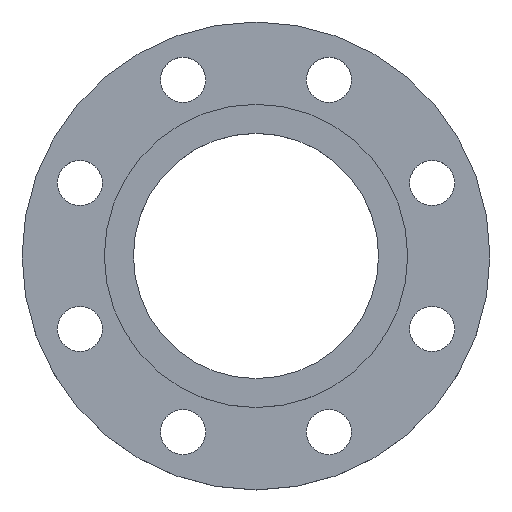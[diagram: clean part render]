
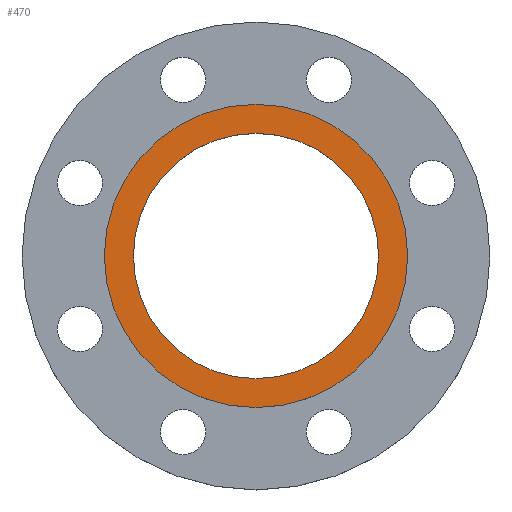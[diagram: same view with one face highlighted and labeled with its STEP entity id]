
A CAD part, top view. The second image highlights one B-rep face of the part: STEP entity #470.
In plain terms, the highlighted planar face has unit normal (0, 0, 1).
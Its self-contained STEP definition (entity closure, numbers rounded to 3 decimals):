
#21 = AXIS2_PLACEMENT_3D ( 'NONE', #96, #374, #640 ) ;
#28 = ORIENTED_EDGE ( 'NONE', *, *, #602, .F. ) ;
#62 = CARTESIAN_POINT ( 'NONE',  ( 87.5, 0., 0. ) ) ;
#76 = DIRECTION ( 'NONE',  ( -1., 0., 0. ) ) ;
#96 = CARTESIAN_POINT ( 'NONE',  ( 0., 0., 0. ) ) ;
#132 = DIRECTION ( 'NONE',  ( -1., 0., 0. ) ) ;
#147 = DIRECTION ( 'NONE',  ( 0., 0., -1. ) ) ;
#152 = EDGE_CURVE ( 'NONE', #497, #777, #307, .T. ) ;
#158 = CARTESIAN_POINT ( 'NONE',  ( 0., 0., 0. ) ) ;
#182 = VERTEX_POINT ( 'NONE', #286 ) ;
#201 = EDGE_CURVE ( 'NONE', #182, #319, #274, .T. ) ;
#205 = AXIS2_PLACEMENT_3D ( 'NONE', #468, #741, #132 ) ;
#223 = AXIS2_PLACEMENT_3D ( 'NONE', #158, #426, #694 ) ;
#230 = EDGE_CURVE ( 'NONE', #777, #497, #605, .T. ) ;
#231 = FACE_BOUND ( 'NONE', #796, .T. ) ;
#248 = CARTESIAN_POINT ( 'NONE',  ( -70.75, 0., 0. ) ) ;
#261 = EDGE_LOOP ( 'NONE', ( #296, #28 ) ) ;
#274 = CIRCLE ( 'NONE', #761, 87.5 ) ;
#286 = CARTESIAN_POINT ( 'NONE',  ( -87.5, 0., 0. ) ) ;
#296 = ORIENTED_EDGE ( 'NONE', *, *, #201, .F. ) ;
#307 = CIRCLE ( 'NONE', #801, 70.75 ) ;
#319 = VERTEX_POINT ( 'NONE', #62 ) ;
#374 = DIRECTION ( 'NONE',  ( 0., 0., 1. ) ) ;
#384 = ORIENTED_EDGE ( 'NONE', *, *, #230, .T. ) ;
#417 = DIRECTION ( 'NONE',  ( -1., 0., 0. ) ) ;
#421 = CARTESIAN_POINT ( 'NONE',  ( 0., 0., 0. ) ) ;
#426 = DIRECTION ( 'NONE',  ( 0., 0., -1. ) ) ;
#436 = FACE_OUTER_BOUND ( 'NONE', #261, .T. ) ;
#468 = CARTESIAN_POINT ( 'NONE',  ( 0., 0., 0. ) ) ;
#470 = ADVANCED_FACE ( 'NONE', ( #231, #436 ), #708, .T. ) ;
#497 = VERTEX_POINT ( 'NONE', #248 ) ;
#524 = CARTESIAN_POINT ( 'NONE',  ( 70.75, 0., 0. ) ) ;
#573 = CIRCLE ( 'NONE', #205, 87.5 ) ;
#584 = ORIENTED_EDGE ( 'NONE', *, *, #152, .T. ) ;
#602 = EDGE_CURVE ( 'NONE', #319, #182, #573, .T. ) ;
#605 = CIRCLE ( 'NONE', #223, 70.75 ) ;
#640 = DIRECTION ( 'NONE',  ( 1., 0., 0. ) ) ;
#688 = DIRECTION ( 'NONE',  ( 0., 0., -1. ) ) ;
#694 = DIRECTION ( 'NONE',  ( -1., 0., 0. ) ) ;
#708 = PLANE ( 'NONE',  #21 ) ;
#741 = DIRECTION ( 'NONE',  ( 0., 0., -1. ) ) ;
#755 = CARTESIAN_POINT ( 'NONE',  ( 0., 0., 0. ) ) ;
#761 = AXIS2_PLACEMENT_3D ( 'NONE', #421, #688, #76 ) ;
#777 = VERTEX_POINT ( 'NONE', #524 ) ;
#796 = EDGE_LOOP ( 'NONE', ( #584, #384 ) ) ;
#801 = AXIS2_PLACEMENT_3D ( 'NONE', #755, #147, #417 ) ;
